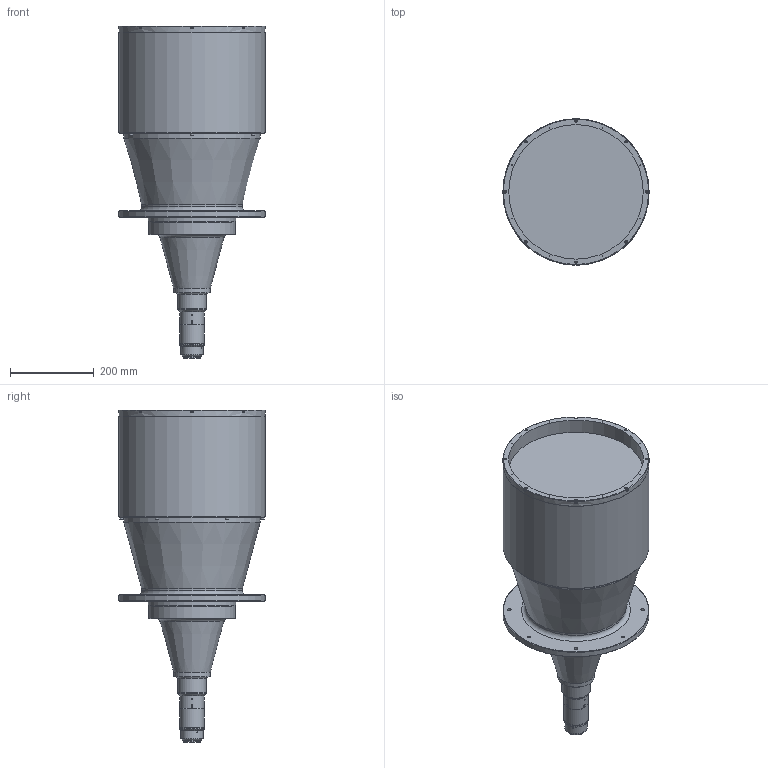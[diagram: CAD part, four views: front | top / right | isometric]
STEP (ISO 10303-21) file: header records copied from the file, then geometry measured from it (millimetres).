
FILE_DESCRIPTION (( 'STEP AP203' ), '1' );
FILE_NAME ('3d_mtl-31023p-007_a002.STEP', '2017-06-22T05:31:01', ( '' ), ( '' ), 'SwSTEP 2.0', 'SolidWorks 2014', '' );
FILE_SCHEMA (( 'CONFIG_CONTROL_DESIGN' ));
Length unit declared in the file: millimetre
Products named in the file (1): 3d_mtl-31023p-007_a002
Bounding box: 350 x 350 x 794.52 mm (x, y, z)
Volume: 38513739.7 mm3; surface area: 861961.7 mm2
Topology: 1 solids, 9 shells, 1003 faces, 2316 edges, 1405 vertices
Faces by surface type: plane 644, cone 198, cylinder 109, torus 44, sphere 8
Full cylindrical faces by diameter (mm): 1.5 x8, 1.6 x4, 2.5 x3, 3.2 x4, 3.5 x8, 3.8 x3, 5.5 x8, 6.8 x4, 7 x4, 8 x4, 8.5 x10, 9 x4, 10 x4, 28 x1, 32.5 x1, 36.5 x1, 38 x2, 39 x1, 40.916 x1, 42 x2, 44 x1, 45 x1, 53 x1, 57 x1, 58 x3, 68 x2, 84.5 x1, 88 x1, 208 x1, 210 x1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
Entity records: 27027 total; most frequent: CARTESIAN_POINT 5599, DIRECTION 4606, ORIENTED_EDGE 3974, EDGE_CURVE 1987, AXIS2_PLACEMENT_3D 1793, EDGE_LOOP 1341, VERTEX_POINT 1310, FACE_OUTER_BOUND 1150
